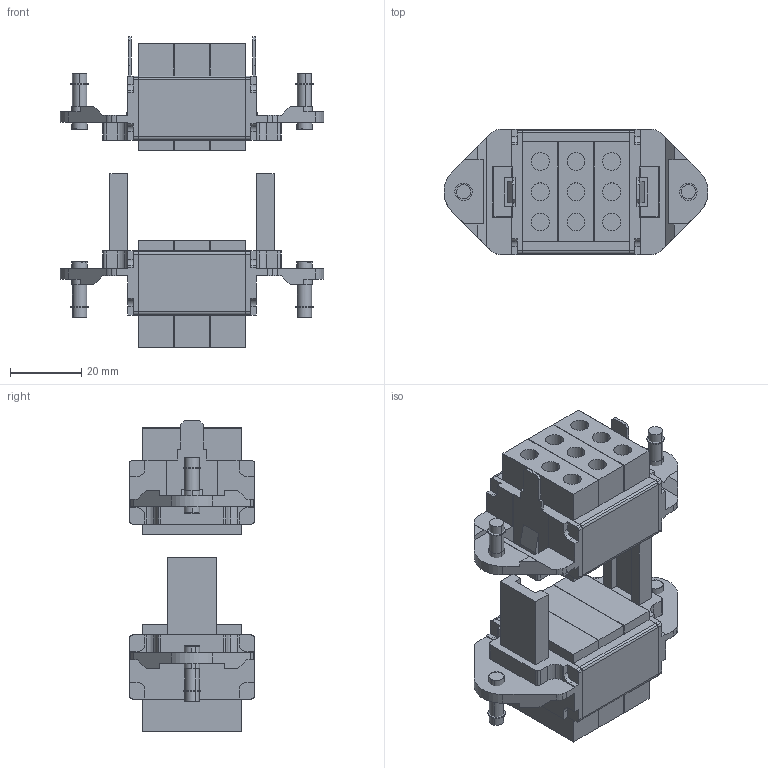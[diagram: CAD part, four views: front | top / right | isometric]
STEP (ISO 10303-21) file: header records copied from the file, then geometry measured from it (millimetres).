
FILE_DESCRIPTION(('CAx-IF Rec.Pracs.---Model Styling and Organization---1.2---2011-12-15','CAx-IF Rec.Pracs.---Geometric and Assembly Validation Properties---4.1---2014-06-16','CAx-IF Rec.Pracs.---PMI Polyline Presentation---2.0---2013-05-24'),'2;1');
FILE_NAME('R5M2WPC35.stp','2021-05-05T11:55:14+03:00',(''),(''),'STEP Interface 4.4 by CT CoreTechnologie','3D_Evolution4.4 by CT CoreTechnologie','');
FILE_SCHEMA(('AUTOMOTIVE_DESIGN { 1 0 10303 214 1 1 1 1 }'));
Length unit declared in the file: millimetre
Products named in the file (5): R5M2WPC35; Combitac 40A Male; M4x16 DIN 7985 PH cl4,8 Zinc_stright; M4 DIN 985 cl.5,0 Zinc_straight; Combitac 40A FeMale
Assembly tree (10 placements, depth 2):
  R5M2WPC35
    Combitac 40A Male
    M4x16 DIN 7985 PH cl4,8 Zinc_stright  x4
    M4 DIN 985 cl.5,0 Zinc_straight  x4
    Combitac 40A FeMale
Bounding box: 73.94 x 35 x 87 mm (x, y, z)
Surface area: 29830.9 mm2 (no closed solid volume)
Topology: 0 solids, 18 shells, 546 faces, 1416 edges, 924 vertices
Faces by surface type: plane 354, cylinder 192
Entity records: 16404 total; most frequent: CARTESIAN_POINT 2813, DIRECTION 2806, ORIENTED_EDGE 2760, EDGE_CURVE 1380, VECTOR 1020, LINE 1020, VERTEX_POINT 900, AXIS2_PLACEMENT_3D 893
